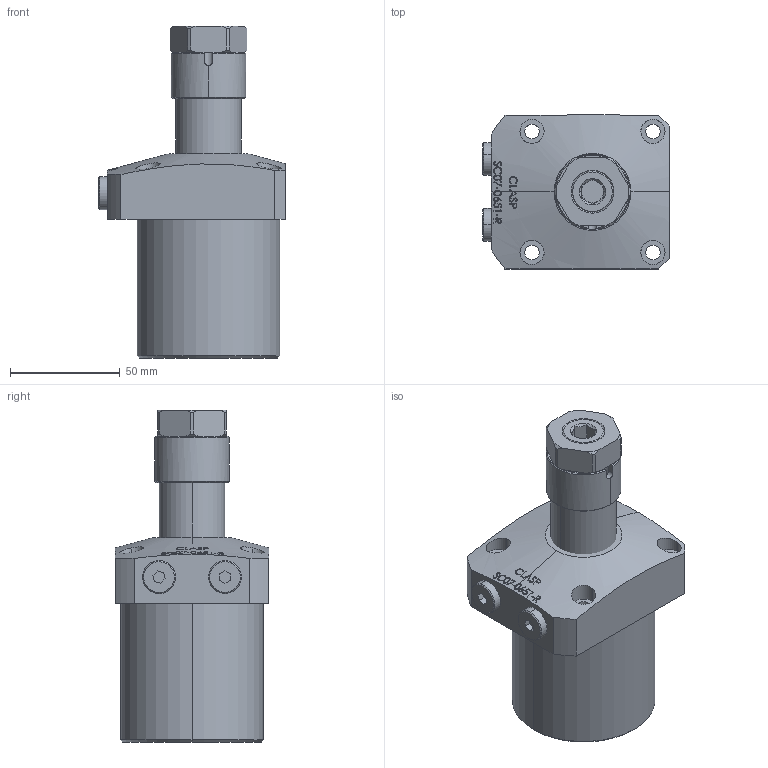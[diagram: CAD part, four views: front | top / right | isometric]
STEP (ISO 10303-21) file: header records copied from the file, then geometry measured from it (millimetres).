
FILE_DESCRIPTION (( 'STEP AP203' ), '1' );
FILE_NAME ('SC07-0651-R.STEP', '2022-07-05T17:52:50', ( '' ), ( '' ), 'SwSTEP 2.0', 'SolidWorks 2017', '' );
FILE_SCHEMA (( 'CONFIG_CONTROL_DESIGN' ));
Length unit declared in the file: millimetre
Products named in the file (6): SC-07-0651-R-05 plug; SC-07-0651-R-04 sleeve; SC-07-0651-R-03-nut; SC07-0651-R; SC-07-0651-R BODY; SC-07-0651-R-Piston
Assembly tree (6 placements, depth 2):
  SC07-0651-R
    SC-07-0651-R BODY
    SC-07-0651-R-Piston
    SC-07-0651-R-05 plug  x2
    SC-07-0651-R-04 sleeve
    SC-07-0651-R-03-nut
Bounding box: 85 x 70 x 151 mm (x, y, z)
Volume: 413950.2 mm3; surface area: 52881 mm2
Topology: 6 solids, 6 shells, 366 faces, 920 edges, 603 vertices
Faces by surface type: plane 158, bspline 94, cylinder 62, cone 50, sphere 2
Entity records: 16717 total; most frequent: CARTESIAN_POINT 8369, ORIENTED_EDGE 1772, DIRECTION 1246, EDGE_CURVE 886, VERTEX_POINT 582, AXIS2_PLACEMENT_3D 424, EDGE_LOOP 400, LINE 398
